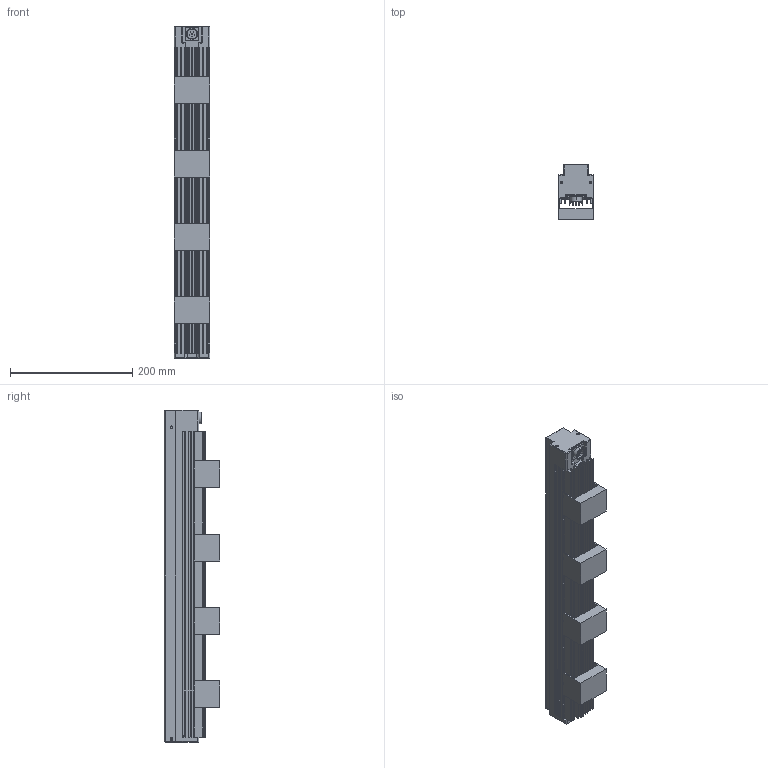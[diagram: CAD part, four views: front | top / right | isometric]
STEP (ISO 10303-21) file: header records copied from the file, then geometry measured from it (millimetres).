
FILE_DESCRIPTION((''),'2;1');
FILE_NAME('MV-LTHS-500-W','2019-09-19T',('win7'),(''),'PRO/ENGINEER BY PARAMETRIC TECHNOLOGY CORPORATION, 2010100','PRO/ENGINEER BY PARAMETRIC TECHNOLOGY CORPORATION, 2010100','');
FILE_SCHEMA(('CONFIG_CONTROL_DESIGN'));
Length unit declared in the file: millimetre
Products named in the file (1): MV-LTHS-500-W
Bounding box: 58 x 90.1 x 543 mm (x, y, z)
Volume: 1764468.1 mm3; surface area: 286012.9 mm2
Topology: 1 solids, 9 shells, 352 faces, 950 edges, 598 vertices
Faces by surface type: plane 238, cylinder 88, cone 26
Entity records: 10816 total; most frequent: CARTESIAN_POINT 1906, DIRECTION 1832, ORIENTED_EDGE 1816, EDGE_CURVE 930, VECTOR 722, LINE 722, VERTEX_POINT 598, AXIS2_PLACEMENT_3D 555
